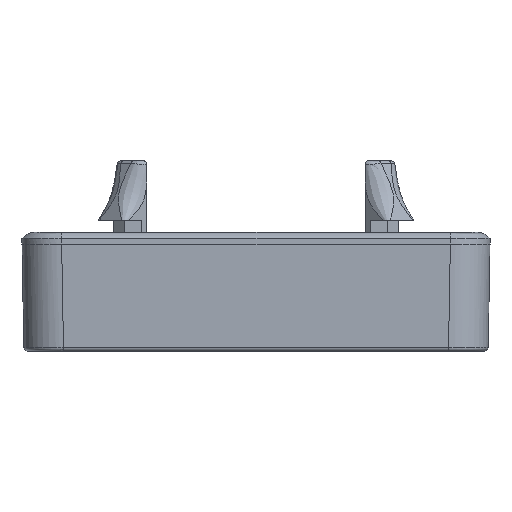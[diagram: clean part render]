
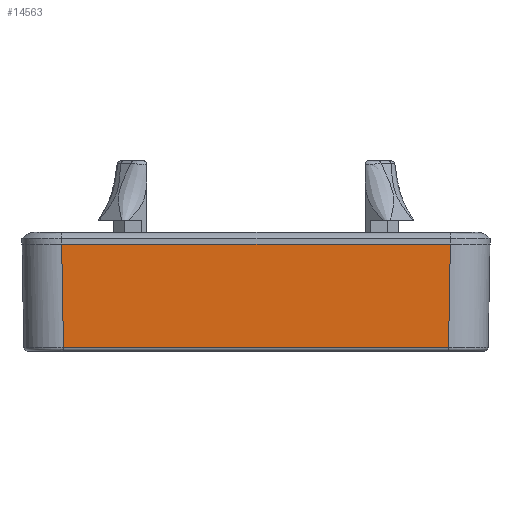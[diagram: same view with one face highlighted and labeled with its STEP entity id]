
A CAD part, left-side view. The second image highlights one B-rep face of the part: STEP entity #14563.
In plain terms, the highlighted planar face has unit normal (-1, 0, -0.018).
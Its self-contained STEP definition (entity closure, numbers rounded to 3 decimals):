
#14563=ADVANCED_FACE('',(#16787),#16024,.F.);
#16024=PLANE('',#37726);
#16787=FACE_OUTER_BOUND('',#18202,.T.);
#18202=EDGE_LOOP('',(#21676,#21677,#21678,#21679));
#21676=ORIENTED_EDGE('',*,*,#31522,.T.);
#21677=ORIENTED_EDGE('',*,*,#31536,.T.);
#21678=ORIENTED_EDGE('',*,*,#31513,.T.);
#21679=ORIENTED_EDGE('',*,*,#31537,.F.);
#28627=VERTEX_POINT('',#51173);
#28628=VERTEX_POINT('',#51174);
#28636=VERTEX_POINT('',#51205);
#28637=VERTEX_POINT('',#51207);
#31513=EDGE_CURVE('',#28627,#28628,#34701,.T.);
#31522=EDGE_CURVE('',#28637,#28636,#34704,.T.);
#31536=EDGE_CURVE('',#28636,#28627,#34709,.T.);
#31537=EDGE_CURVE('',#28637,#28628,#34710,.T.);
#34701=LINE('',#51172,#35949);
#34704=LINE('',#51206,#35952);
#34709=LINE('',#51262,#35957);
#34710=LINE('',#51263,#35958);
#35949=VECTOR('',#40802,1.);
#35952=VECTOR('',#40811,1.);
#35957=VECTOR('',#40824,1.);
#35958=VECTOR('',#40825,1.);
#37726=AXIS2_PLACEMENT_3D('',#51264,#40826,#40827);
#40802=DIRECTION('',(-0.017,-0.017,1.));
#40811=DIRECTION('',(0.017,-0.017,-1.));
#40824=DIRECTION('',(0.,-1.,0.));
#40825=DIRECTION('',(0.,-1.,0.));
#40826=DIRECTION('',(1.,0.,0.017));
#40827=DIRECTION('',(0.017,0.,-1.));
#51172=CARTESIAN_POINT('',(-73.493,-24.493,13.073));
#51173=CARTESIAN_POINT('',(-73.273,-24.274,0.491));
#51174=CARTESIAN_POINT('',(-73.5,-24.501,13.5));
#51205=CARTESIAN_POINT('',(-73.273,24.274,0.491));
#51206=CARTESIAN_POINT('',(-73.493,24.493,13.073));
#51207=CARTESIAN_POINT('',(-73.5,24.501,13.5));
#51262=CARTESIAN_POINT('',(-73.273,0.,0.491));
#51263=CARTESIAN_POINT('',(-73.5,0.,13.5));
#51264=CARTESIAN_POINT('',(-73.5,0.,13.5));
